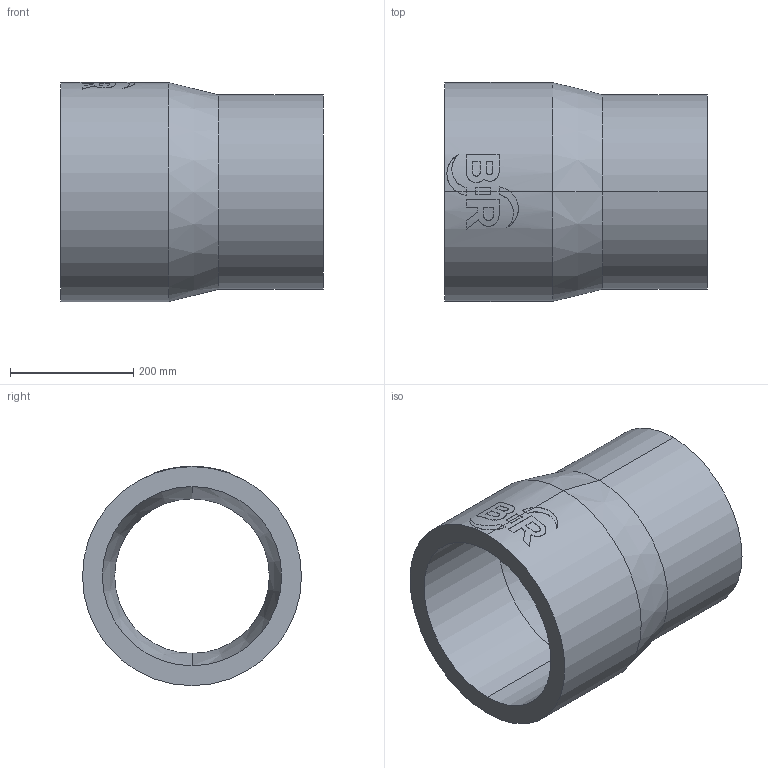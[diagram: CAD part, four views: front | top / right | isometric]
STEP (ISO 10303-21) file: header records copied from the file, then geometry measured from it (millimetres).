
FILE_DESCRIPTION (( 'STEP AP214' ), '1' );
FILE_NAME ('2323242315.STEP', '2018-07-20T10:52:58', ( '' ), ( '' ), 'SwSTEP 2.0', 'SolidWorks 2017', '' );
FILE_SCHEMA (( 'AUTOMOTIVE_DESIGN' ));
Length unit declared in the file: millimetre
Products named in the file (1): 2323242315
Bounding box: 426 x 355 x 355.46 mm (x, y, z)
Volume: 13127857.4 mm3; surface area: 876995.1 mm2
Topology: 1 solids, 1 shells, 63 faces, 160 edges, 104 vertices
Faces by surface type: cylinder 31, plane 28, cone 4
Entity records: 3452 total; most frequent: CARTESIAN_POINT 1243, ORIENTED_EDGE 320, DIRECTION 296, EDGE_CURVE 160, AXIS2_PLACEMENT_3D 112, VERTEX_POINT 104, LINE 72, VECTOR 72
